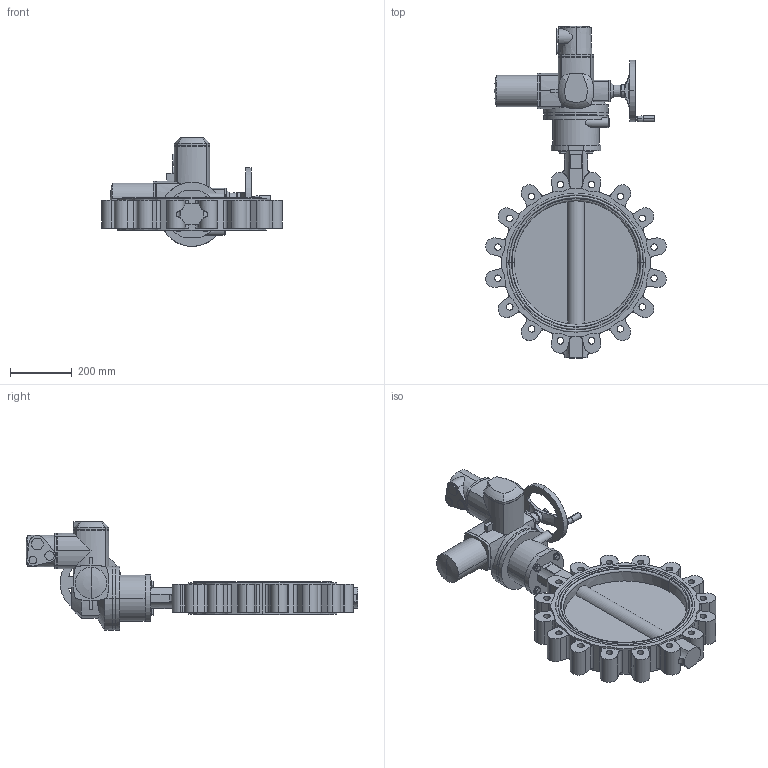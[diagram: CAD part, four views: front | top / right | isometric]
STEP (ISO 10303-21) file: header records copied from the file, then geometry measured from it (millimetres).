
FILE_DESCRIPTION (( 'STEP AP214' ), '1' );
FILE_NAME ('67557.step', '2020-10-23T13:47:08', ( '' ), ( '' ), 'SwSTEP 2.0', 'SolidWorks 2019', '' );
FILE_SCHEMA (( 'AUTOMOTIVE_DESIGN' ));
Length unit declared in the file: millimetre
Products named in the file (7): Gewindestift mit Kegelkuppe und In-6kt DIN 913 A4_Gewindestift mit In-6kt M6x12; 6kt-Schr DIN 933_M12x40; 67557; SQ(R) 12.2_SQ12.2 Drehstrommotor F12; TL20-0400_M01; U-Scheibe DIN 125 A_M12; 54377_SQ12.2 F12-VK27
Assembly tree (12 placements, depth 2):
  67557
    TL20-0400_M01
    U-Scheibe DIN 125 A_M12  x4
    6kt-Schr DIN 933_M12x40  x4
    SQ(R) 12.2_SQ12.2 Drehstrommotor F12
    54377_SQ12.2 F12-VK27
    Gewindestift mit Kegelkuppe und In-6kt DIN 913 A4_Gewindestift mit In-6kt M6x12
Bounding box: 584.62 x 1073 x 351.55 mm (x, y, z)
Volume: 23886741.4 mm3; surface area: 1537154.8 mm2
Topology: 12 solids, 12 shells, 878 faces, 2283 edges, 1463 vertices
Faces by surface type: plane 398, cylinder 341, cone 111, torus 12, bspline 12, sphere 4
Entity records: 33589 total; most frequent: CARTESIAN_POINT 9450, DIRECTION 4284, ORIENTED_EDGE 4146, EDGE_CURVE 2073, AXIS2_PLACEMENT_3D 1624, VERTEX_POINT 1341, VECTOR 1036, LINE 1036
